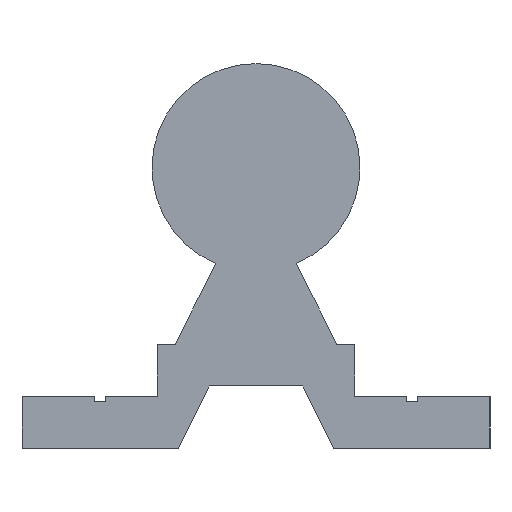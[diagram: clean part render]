
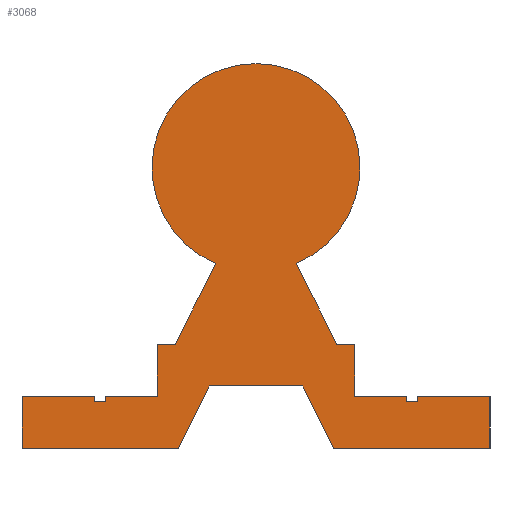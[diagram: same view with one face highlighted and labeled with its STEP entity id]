
A CAD part, left-side view. The second image highlights one B-rep face of the part: STEP entity #3068.
In plain terms, the highlighted planar face has unit normal (-1, 0, 0).
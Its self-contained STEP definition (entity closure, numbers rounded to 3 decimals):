
#76=LINE('',#4379,#330);
#86=LINE('',#4420,#340);
#116=LINE('',#4641,#370);
#266=LINE('',#5199,#520);
#270=LINE('',#5207,#524);
#273=LINE('',#5213,#527);
#276=LINE('',#5219,#530);
#279=LINE('',#5225,#533);
#283=LINE('',#5232,#537);
#286=LINE('',#5237,#540);
#288=LINE('',#5241,#542);
#289=LINE('',#5243,#543);
#290=LINE('',#5246,#544);
#293=LINE('',#5252,#547);
#296=LINE('',#5258,#550);
#299=LINE('',#5265,#553);
#303=LINE('',#5273,#557);
#306=LINE('',#5278,#560);
#309=LINE('',#5283,#563);
#311=LINE('',#5287,#565);
#312=LINE('',#5289,#566);
#313=LINE('',#5292,#567);
#316=LINE('',#5297,#570);
#330=VECTOR('',#3457,10.);
#340=VECTOR('',#3479,10.);
#370=VECTOR('',#3641,10.);
#520=VECTOR('',#4217,10.);
#524=VECTOR('',#4223,10.);
#527=VECTOR('',#4228,10.);
#530=VECTOR('',#4233,10.);
#533=VECTOR('',#4238,10.);
#537=VECTOR('',#4244,10.);
#540=VECTOR('',#4249,10.);
#542=VECTOR('',#4253,10.);
#543=VECTOR('',#4256,10.);
#544=VECTOR('',#4259,10.);
#547=VECTOR('',#4264,10.);
#550=VECTOR('',#4269,10.);
#553=VECTOR('',#4274,10.);
#557=VECTOR('',#4280,10.);
#560=VECTOR('',#4285,10.);
#563=VECTOR('',#4290,10.);
#565=VECTOR('',#4294,10.);
#566=VECTOR('',#4297,10.);
#567=VECTOR('',#4300,10.);
#570=VECTOR('',#4305,10.);
#668=PLANE('',#3412);
#806=FACE_OUTER_BOUND('',#968,.T.);
#968=EDGE_LOOP('',(#2891,#2892,#2893,#2894,#2895,#2896,#2897,#2898,#2899,
#2900,#2901,#2902,#2903,#2904,#2905,#2906,#2907,#2908,#2909,#2910,#2911,
#2912,#2913,#2914));
#1153=CIRCLE('',#3409,10.);
#1213=VERTEX_POINT('',#4376);
#1214=VERTEX_POINT('',#4378);
#1226=VERTEX_POINT('',#4417);
#1227=VERTEX_POINT('',#4419);
#1294=VERTEX_POINT('',#4638);
#1295=VERTEX_POINT('',#4640);
#1468=VERTEX_POINT('',#5197);
#1469=VERTEX_POINT('',#5198);
#1472=VERTEX_POINT('',#5206);
#1474=VERTEX_POINT('',#5212);
#1476=VERTEX_POINT('',#5218);
#1478=VERTEX_POINT('',#5224);
#1480=VERTEX_POINT('',#5230);
#1481=VERTEX_POINT('',#5235);
#1482=VERTEX_POINT('',#5239);
#1483=VERTEX_POINT('',#5245);
#1485=VERTEX_POINT('',#5251);
#1487=VERTEX_POINT('',#5257);
#1489=VERTEX_POINT('',#5263);
#1490=VERTEX_POINT('',#5264);
#1493=VERTEX_POINT('',#5272);
#1495=VERTEX_POINT('',#5281);
#1496=VERTEX_POINT('',#5285);
#1497=VERTEX_POINT('',#5291);
#1526=EDGE_CURVE('',#1213,#1214,#76,.T.);
#1542=EDGE_CURVE('',#1226,#1227,#86,.T.);
#1636=EDGE_CURVE('',#1294,#1295,#116,.T.);
#1917=EDGE_CURVE('',#1468,#1469,#266,.T.);
#1921=EDGE_CURVE('',#1472,#1468,#270,.T.);
#1924=EDGE_CURVE('',#1474,#1472,#273,.T.);
#1927=EDGE_CURVE('',#1476,#1474,#276,.T.);
#1930=EDGE_CURVE('',#1478,#1476,#279,.T.);
#1934=EDGE_CURVE('',#1480,#1478,#283,.T.);
#1937=EDGE_CURVE('',#1481,#1480,#286,.T.);
#1939=EDGE_CURVE('',#1482,#1481,#288,.T.);
#1940=EDGE_CURVE('',#1295,#1482,#289,.T.);
#1941=EDGE_CURVE('',#1483,#1294,#290,.T.);
#1944=EDGE_CURVE('',#1485,#1483,#293,.T.);
#1947=EDGE_CURVE('',#1487,#1485,#296,.T.);
#1950=EDGE_CURVE('',#1489,#1490,#299,.T.);
#1954=EDGE_CURVE('',#1493,#1489,#303,.T.);
#1957=EDGE_CURVE('',#1214,#1493,#306,.T.);
#1960=EDGE_CURVE('',#1495,#1213,#309,.T.);
#1962=EDGE_CURVE('',#1496,#1495,#311,.T.);
#1963=EDGE_CURVE('',#1227,#1496,#312,.T.);
#1964=EDGE_CURVE('',#1497,#1226,#313,.T.);
#1967=EDGE_CURVE('',#1469,#1497,#316,.T.);
#1969=EDGE_CURVE('',#1490,#1487,#1153,.T.);
#2891=ORIENTED_EDGE('',*,*,#1969,.F.);
#2892=ORIENTED_EDGE('',*,*,#1950,.F.);
#2893=ORIENTED_EDGE('',*,*,#1954,.F.);
#2894=ORIENTED_EDGE('',*,*,#1957,.F.);
#2895=ORIENTED_EDGE('',*,*,#1526,.F.);
#2896=ORIENTED_EDGE('',*,*,#1960,.F.);
#2897=ORIENTED_EDGE('',*,*,#1962,.F.);
#2898=ORIENTED_EDGE('',*,*,#1963,.F.);
#2899=ORIENTED_EDGE('',*,*,#1542,.F.);
#2900=ORIENTED_EDGE('',*,*,#1964,.F.);
#2901=ORIENTED_EDGE('',*,*,#1967,.F.);
#2902=ORIENTED_EDGE('',*,*,#1917,.F.);
#2903=ORIENTED_EDGE('',*,*,#1921,.F.);
#2904=ORIENTED_EDGE('',*,*,#1924,.F.);
#2905=ORIENTED_EDGE('',*,*,#1927,.F.);
#2906=ORIENTED_EDGE('',*,*,#1930,.F.);
#2907=ORIENTED_EDGE('',*,*,#1934,.F.);
#2908=ORIENTED_EDGE('',*,*,#1937,.F.);
#2909=ORIENTED_EDGE('',*,*,#1939,.F.);
#2910=ORIENTED_EDGE('',*,*,#1940,.F.);
#2911=ORIENTED_EDGE('',*,*,#1636,.F.);
#2912=ORIENTED_EDGE('',*,*,#1941,.F.);
#2913=ORIENTED_EDGE('',*,*,#1944,.F.);
#2914=ORIENTED_EDGE('',*,*,#1947,.F.);
#3068=ADVANCED_FACE('',(#806),#668,.F.);
#3409=AXIS2_PLACEMENT_3D('',#5300,#4309,#4310);
#3412=AXIS2_PLACEMENT_3D('',#5303,#4315,#4316);
#3457=DIRECTION('',(0.,-1.,0.));
#3479=DIRECTION('',(0.,-1.,0.));
#3641=DIRECTION('',(0.,-1.,0.));
#4217=DIRECTION('',(0.,0.447,-0.894));
#4223=DIRECTION('',(0.,1.,0.));
#4228=DIRECTION('',(0.,0.447,0.894));
#4233=DIRECTION('',(0.,1.,0.));
#4238=DIRECTION('',(0.,0.,-1.));
#4244=DIRECTION('',(0.,-1.,0.));
#4249=DIRECTION('',(0.,0.,1.));
#4253=DIRECTION('',(0.,-1.,0.));
#4256=DIRECTION('',(0.,0.,-1.));
#4259=DIRECTION('',(0.,0.,-1.));
#4264=DIRECTION('',(0.,-1.,0.));
#4269=DIRECTION('',(0.,-0.447,-0.894));
#4274=DIRECTION('',(0.,-0.447,0.894));
#4280=DIRECTION('',(0.,-1.,0.));
#4285=DIRECTION('',(0.,0.,1.));
#4290=DIRECTION('',(0.,0.,1.));
#4294=DIRECTION('',(0.,-1.,0.));
#4297=DIRECTION('',(0.,0.,-1.));
#4300=DIRECTION('',(0.,0.,1.));
#4305=DIRECTION('',(0.,1.,0.));
#4309=DIRECTION('center_axis',(1.,0.,0.));
#4310=DIRECTION('ref_axis',(0.,1.,0.));
#4315=DIRECTION('center_axis',(1.,0.,0.));
#4316=DIRECTION('ref_axis',(0.,0.,-1.));
#4376=CARTESIAN_POINT('',(0.,14.5,5.));
#4378=CARTESIAN_POINT('',(0.,9.5,5.));
#4379=CARTESIAN_POINT('',(0.,14.5,5.));
#4417=CARTESIAN_POINT('',(0.,22.5,5.));
#4419=CARTESIAN_POINT('',(0.,15.5,5.));
#4420=CARTESIAN_POINT('',(0.,22.5,5.));
#4638=CARTESIAN_POINT('',(0.,-9.5,5.));
#4640=CARTESIAN_POINT('',(0.,-14.5,5.));
#4641=CARTESIAN_POINT('',(0.,-9.5,5.));
#5197=CARTESIAN_POINT('',(0.,4.5,6.));
#5198=CARTESIAN_POINT('',(0.,7.5,0.));
#5199=CARTESIAN_POINT('',(0.,4.5,6.));
#5206=CARTESIAN_POINT('',(0.,-4.5,6.));
#5207=CARTESIAN_POINT('',(0.,-4.5,6.));
#5212=CARTESIAN_POINT('',(0.,-7.5,0.));
#5213=CARTESIAN_POINT('',(0.,-7.5,0.));
#5218=CARTESIAN_POINT('',(0.,-22.5,0.));
#5219=CARTESIAN_POINT('',(0.,-22.5,0.));
#5224=CARTESIAN_POINT('',(0.,-22.5,5.));
#5225=CARTESIAN_POINT('',(0.,-22.5,5.));
#5230=CARTESIAN_POINT('',(0.,-15.5,5.));
#5232=CARTESIAN_POINT('',(0.,-15.5,5.));
#5235=CARTESIAN_POINT('',(0.,-15.5,4.5));
#5237=CARTESIAN_POINT('',(0.,-15.5,4.5));
#5239=CARTESIAN_POINT('',(0.,-14.5,4.5));
#5241=CARTESIAN_POINT('',(0.,-14.5,4.5));
#5243=CARTESIAN_POINT('',(0.,-14.5,5.));
#5245=CARTESIAN_POINT('',(0.,-9.5,10.));
#5246=CARTESIAN_POINT('',(0.,-9.5,10.));
#5251=CARTESIAN_POINT('',(0.,-7.766,10.));
#5252=CARTESIAN_POINT('',(0.,-7.766,10.));
#5257=CARTESIAN_POINT('',(0.,-3.875,17.781));
#5258=CARTESIAN_POINT('',(0.,-3.875,17.781));
#5263=CARTESIAN_POINT('',(0.,7.766,10.));
#5264=CARTESIAN_POINT('',(0.,3.875,17.781));
#5265=CARTESIAN_POINT('',(0.,7.766,10.));
#5272=CARTESIAN_POINT('',(0.,9.5,10.));
#5273=CARTESIAN_POINT('',(0.,9.5,10.));
#5278=CARTESIAN_POINT('',(0.,9.5,5.));
#5281=CARTESIAN_POINT('',(0.,14.5,4.5));
#5283=CARTESIAN_POINT('',(0.,14.5,4.5));
#5285=CARTESIAN_POINT('',(0.,15.5,4.5));
#5287=CARTESIAN_POINT('',(0.,15.5,4.5));
#5289=CARTESIAN_POINT('',(0.,15.5,5.));
#5291=CARTESIAN_POINT('',(0.,22.5,0.));
#5292=CARTESIAN_POINT('',(0.,22.5,0.));
#5297=CARTESIAN_POINT('',(0.,7.5,0.));
#5300=CARTESIAN_POINT('Origin',(0.,0.,27.));
#5303=CARTESIAN_POINT('Origin',(0.,0.,27.));
